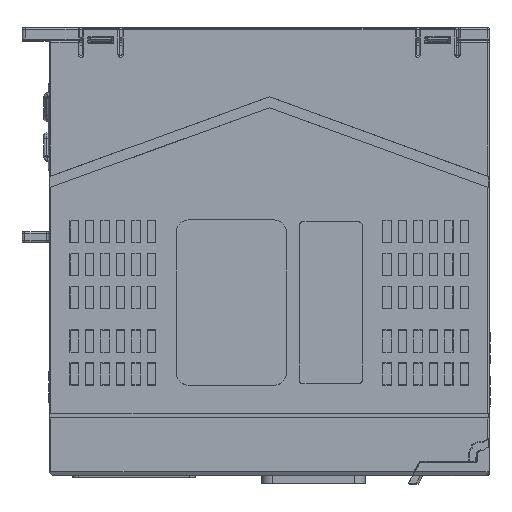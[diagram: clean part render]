
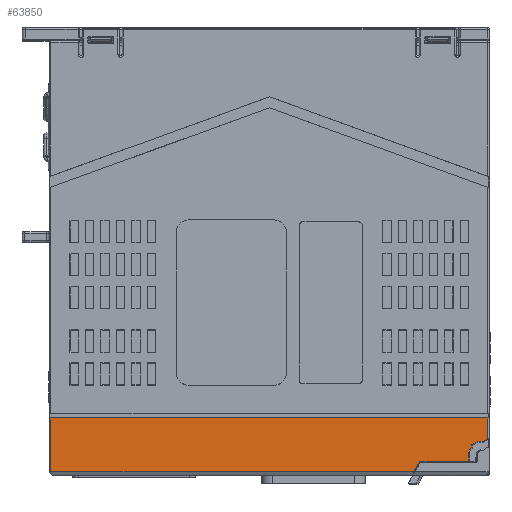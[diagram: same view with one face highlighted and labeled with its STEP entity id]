
A CAD part, left-side view. The second image highlights one B-rep face of the part: STEP entity #63850.
In plain terms, the highlighted planar face has unit normal (-1, 0, 0).
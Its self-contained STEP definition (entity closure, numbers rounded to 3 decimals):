
#20016=DIRECTION('',(0.,-0.5,0.866));
#20017=VECTOR('',#20016,3.926);
#20018=CARTESIAN_POINT('',(-27.5,-52.546,-79.9));
#20019=LINE('',#20018,#20017);
#20023=DIRECTION('',(0.,1.,0.));
#20024=VECTOR('',#20023,132.046);
#20025=CARTESIAN_POINT('',(-27.5,-52.546,-79.9));
#20026=LINE('',#20025,#20024);
#20030=DIRECTION('',(0.,0.,-1.));
#20031=VECTOR('',#20030,19.484);
#20032=CARTESIAN_POINT('',(-27.5,79.5,-60.416));
#20033=LINE('',#20032,#20031);
#20037=DIRECTION('',(0.,-1.,0.));
#20038=VECTOR('',#20037,159.);
#20039=CARTESIAN_POINT('',(-27.5,79.5,-60.416));
#20040=LINE('',#20039,#20038);
#20044=DIRECTION('',(0.,0.,-1.));
#20045=VECTOR('',#20044,7.56);
#20046=CARTESIAN_POINT('',(-27.5,-79.5,-60.416));
#20047=LINE('',#20046,#20045);
#20051=DIRECTION('',(0.,-0.866,0.5));
#20052=VECTOR('',#20051,2.042);
#20053=CARTESIAN_POINT('',(-27.5,-77.731,-68.997));
#20054=LINE('',#20053,#20052);
#20058=CARTESIAN_POINT('',(-27.5,-76.925,-73.475));
#20059=DIRECTION('',(-1.,0.,0.));
#20060=DIRECTION('',(0.,-0.177,0.984));
#20061=AXIS2_PLACEMENT_3D('',#20058,#20059,#20060);
#20066=DIRECTION('',(0.,0.122,0.993));
#20067=VECTOR('',#20066,0.702);
#20068=CARTESIAN_POINT('',(-27.5,-73.782,-71.3));
#20069=LINE('',#20068,#20067);
#20073=DIRECTION('',(0.,-0.866,0.5));
#20074=VECTOR('',#20073,0.719);
#20075=CARTESIAN_POINT('',(-27.5,-73.159,-71.66));
#20076=LINE('',#20075,#20074);
#20080=CARTESIAN_POINT('',(-27.5,-76.925,-73.475));
#20081=DIRECTION('',(1.,0.,0.));
#20082=DIRECTION('',(0.,1.,0.));
#20083=AXIS2_PLACEMENT_3D('',#20080,#20081,#20082);
#20088=DIRECTION('',(0.,0.,1.));
#20089=VECTOR('',#20088,2.625);
#20090=CARTESIAN_POINT('',(-27.5,-72.625,-76.1));
#20091=LINE('',#20090,#20089);
#20095=DIRECTION('',(0.,-1.,0.));
#20096=VECTOR('',#20095,17.423);
#20097=CARTESIAN_POINT('',(-27.5,-55.202,-76.1));
#20098=LINE('',#20097,#20096);
#20102=CARTESIAN_POINT('',(-27.5,-55.202,-76.9));
#20103=DIRECTION('',(1.,0.,0.));
#20104=DIRECTION('',(0.,0.866,0.5));
#20105=AXIS2_PLACEMENT_3D('',#20102,#20103,#20104);
#27045=CARTESIAN_POINT('',(-27.5,79.5,-79.9));
#27058=CARTESIAN_POINT('',(-27.5,-52.546,-79.9));
#29806=CARTESIAN_POINT('',(-27.5,-73.459,-72.179));
#29807=DIRECTION('',(1.,0.,0.));
#29808=DIRECTION('',(0.,0.937,0.35));
#29809=AXIS2_PLACEMENT_3D('',#29806,#29807,#29808);
#29911=CARTESIAN_POINT('',(-27.5,-74.292,-70.531));
#29912=DIRECTION('',(1.,0.,0.));
#29913=DIRECTION('',(0.,0.993,-0.122));
#29914=AXIS2_PLACEMENT_3D('',#29911,#29912,#29913);
#42358=VERTEX_POINT('',#27045);
#42545=CARTESIAN_POINT('',(-27.5,-72.625,-73.475));
#42546=VERTEX_POINT('',#42545);
#42547=CARTESIAN_POINT('',(-27.5,-73.782,-71.3));
#42548=VERTEX_POINT('',#42547);
#42549=CARTESIAN_POINT('',(-27.5,-79.5,-67.976));
#42551=VERTEX_POINT('',#42549);
#42722=CARTESIAN_POINT('',(-27.5,-73.696,-70.604));
#42723=VERTEX_POINT('',#42722);
#42724=CARTESIAN_POINT('',(-27.5,-73.892,-70.084));
#42725=VERTEX_POINT('',#42724);
#42734=CARTESIAN_POINT('',(-27.5,-72.897,-71.969));
#42735=VERTEX_POINT('',#42734);
#42736=CARTESIAN_POINT('',(-27.5,-73.159,-71.66));
#42737=VERTEX_POINT('',#42736);
#42739=CARTESIAN_POINT('',(-27.5,-77.731,-68.997));
#42741=VERTEX_POINT('',#42739);
#43996=VERTEX_POINT('',#27058);
#43997=CARTESIAN_POINT('',(-27.5,-54.509,-76.5));
#43998=VERTEX_POINT('',#43997);
#44001=CARTESIAN_POINT('',(-27.5,-55.202,-76.1));
#44002=VERTEX_POINT('',#44001);
#44005=CARTESIAN_POINT('',(-27.5,-72.625,-76.1));
#44006=VERTEX_POINT('',#44005);
#46604=CARTESIAN_POINT('',(-27.5,79.5,-60.416));
#46605=CARTESIAN_POINT('',(-27.5,-79.5,-60.416));
#46606=VERTEX_POINT('',#46604);
#46607=VERTEX_POINT('',#46605);
#63814=CARTESIAN_POINT('',(-27.5,80.,-81.4));
#63815=DIRECTION('',(-1.,0.,0.));
#63816=DIRECTION('',(0.,-1.,0.));
#63817=AXIS2_PLACEMENT_3D('',#63814,#63815,#63816);
#63818=PLANE('',#63817);
#63820=ORIENTED_EDGE('',*,*,#63819,.F.);
#63822=ORIENTED_EDGE('',*,*,#63821,.T.);
#63824=ORIENTED_EDGE('',*,*,#63823,.F.);
#63826=ORIENTED_EDGE('',*,*,#63825,.T.);
#63828=ORIENTED_EDGE('',*,*,#63827,.T.);
#63830=ORIENTED_EDGE('',*,*,#63829,.F.);
#63832=ORIENTED_EDGE('',*,*,#63831,.T.);
#63834=ORIENTED_EDGE('',*,*,#63833,.F.);
#63836=ORIENTED_EDGE('',*,*,#63835,.F.);
#63838=ORIENTED_EDGE('',*,*,#63837,.F.);
#63840=ORIENTED_EDGE('',*,*,#63839,.F.);
#63842=ORIENTED_EDGE('',*,*,#63841,.F.);
#63843=ORIENTED_EDGE('',*,*,#63151,.F.);
#63845=ORIENTED_EDGE('',*,*,#63844,.F.);
#63847=ORIENTED_EDGE('',*,*,#63846,.F.);
#63848=EDGE_LOOP('',(#63820,#63822,#63824,#63826,#63828,#63830,#63832,#63834,
#63836,#63838,#63840,#63842,#63843,#63845,#63847));
#63849=FACE_OUTER_BOUND('',#63848,.F.);
#63850=ADVANCED_FACE('',(#63849),#63818,.T.);
#20062=CIRCLE('',#20061,4.55);
#20084=CIRCLE('',#20083,4.3);
#20106=CIRCLE('',#20105,0.8);
#29810=CIRCLE('',#29809,0.6);
#29915=CIRCLE('',#29914,0.6);
#63151=EDGE_CURVE('',#44006,#42546,#20091,.T.);
#63819=EDGE_CURVE('',#43996,#43998,#20019,.T.);
#63821=EDGE_CURVE('',#43996,#42358,#20026,.T.);
#63823=EDGE_CURVE('',#46606,#42358,#20033,.T.);
#63825=EDGE_CURVE('',#46606,#46607,#20040,.T.);
#63827=EDGE_CURVE('',#46607,#42551,#20047,.T.);
#63829=EDGE_CURVE('',#42741,#42551,#20054,.T.);
#63831=EDGE_CURVE('',#42741,#42725,#20062,.T.);
#63833=EDGE_CURVE('',#42723,#42725,#29915,.T.);
#63835=EDGE_CURVE('',#42548,#42723,#20069,.T.);
#63837=EDGE_CURVE('',#42737,#42548,#20076,.T.);
#63839=EDGE_CURVE('',#42735,#42737,#29810,.T.);
#63841=EDGE_CURVE('',#42546,#42735,#20084,.T.);
#63844=EDGE_CURVE('',#44002,#44006,#20098,.T.);
#63846=EDGE_CURVE('',#43998,#44002,#20106,.T.);
